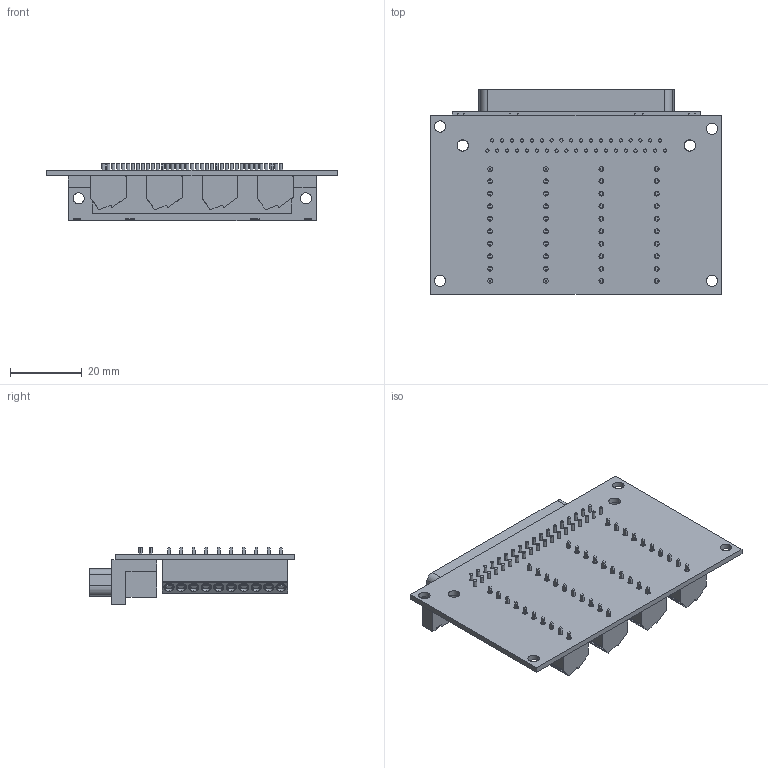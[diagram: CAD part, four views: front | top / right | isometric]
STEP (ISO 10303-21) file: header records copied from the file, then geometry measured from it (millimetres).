
FILE_DESCRIPTION((''),'2;1');
FILE_NAME('CU_CB-37F-LP','2016-08-15T',('dkendric'),(''),'CREO PARAMETRIC BY PTC INC, 2015380','CREO PARAMETRIC BY PTC INC, 2015380','');
FILE_SCHEMA(('CONFIG_CONTROL_DESIGN'));
Products named in the file (1): CU_CB-37F-LP
Bounding box: 81.13 x 57.32 x 16.1 mm (x, y, z)
Volume: 27748.6 mm3; surface area: 18011.3 mm2
Topology: 1 solids, 1 shells, 2954 faces, 8094 edges, 5390 vertices
Faces by surface type: plane 1750, cylinder 1004, torus 200
Entity records: 100038 total; most frequent: CARTESIAN_POINT 27406, ORIENTED_EDGE 16188, DIRECTION 13530, EDGE_CURVE 8094, VERTEX_POINT 5390, AXIS2_PLACEMENT_3D 4602, VECTOR 4326, LINE 4326
